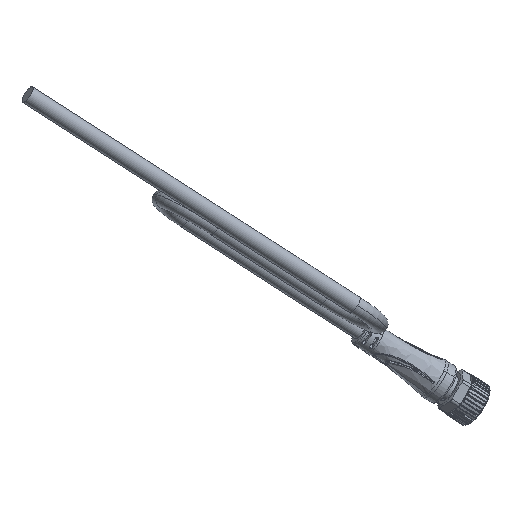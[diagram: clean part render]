
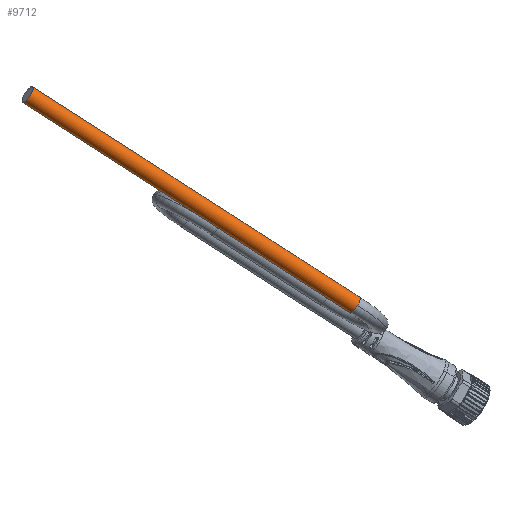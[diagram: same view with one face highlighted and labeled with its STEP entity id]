
A CAD part, top view. The second image highlights one B-rep face of the part: STEP entity #9712.
In plain terms, the highlighted cylindrical face has radius 2 mm (diameter 4 mm), a partial arc.
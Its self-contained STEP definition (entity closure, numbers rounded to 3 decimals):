
#81 = VERTEX_POINT ( 'NONE', #19049 ) ;
#2032 = DIRECTION ( 'NONE',  ( -1., 0., 0. ) ) ;
#3020 = EDGE_CURVE ( 'NONE', #10283, #35376, #27594, .T. ) ;
#3429 = CIRCLE ( 'NONE', #29197, 2. ) ;
#3659 = VERTEX_POINT ( 'NONE', #7986 ) ;
#4458 = DIRECTION ( 'NONE',  ( -1., 0., 0. ) ) ;
#4986 = CARTESIAN_POINT ( 'NONE',  ( 0., 40., -90. ) ) ;
#5838 = VECTOR ( 'NONE', #9872, 1000. ) ;
#7986 = CARTESIAN_POINT ( 'NONE',  ( -2., 40., 0. ) ) ;
#8530 = CARTESIAN_POINT ( 'NONE',  ( 0., 42., 0. ) ) ;
#9137 = CARTESIAN_POINT ( 'NONE',  ( 2., 40., 0. ) ) ;
#9712 = ADVANCED_FACE ( 'NONE', ( #32975 ), #12103, .T. ) ;
#9872 = DIRECTION ( 'NONE',  ( 0., 0., -1. ) ) ;
#10283 = VERTEX_POINT ( 'NONE', #34470 ) ;
#12103 = CYLINDRICAL_SURFACE ( 'NONE', #38821, 2. ) ;
#13216 = EDGE_CURVE ( 'NONE', #3659, #32283, #35467, .T. ) ;
#14028 = EDGE_CURVE ( 'NONE', #32283, #81, #3429, .T. ) ;
#16038 = EDGE_CURVE ( 'NONE', #81, #35376, #33744, .T. ) ;
#16524 = EDGE_LOOP ( 'NONE', ( #30828, #22824, #31864, #26224, #29553 ) ) ;
#16862 = CARTESIAN_POINT ( 'NONE',  ( 0., 40., 0. ) ) ;
#18000 = CARTESIAN_POINT ( 'NONE',  ( 0., 40., 0. ) ) ;
#18567 = DIRECTION ( 'NONE',  ( 0., 0., -1. ) ) ;
#19049 = CARTESIAN_POINT ( 'NONE',  ( 2., 40., 0. ) ) ;
#19100 = AXIS2_PLACEMENT_3D ( 'NONE', #16862, #20005, #4458 ) ;
#19895 = CARTESIAN_POINT ( 'NONE',  ( 2., 40., -90. ) ) ;
#20005 = DIRECTION ( 'NONE',  ( 0., 0., -1. ) ) ;
#22824 = ORIENTED_EDGE ( 'NONE', *, *, #14028, .T. ) ;
#24652 = LINE ( 'NONE', #36868, #5838 ) ;
#24684 = DIRECTION ( 'NONE',  ( -1., 0., 0. ) ) ;
#26224 = ORIENTED_EDGE ( 'NONE', *, *, #3020, .F. ) ;
#26809 = CARTESIAN_POINT ( 'NONE',  ( 0., 40., 0. ) ) ;
#27594 = CIRCLE ( 'NONE', #31936, 2. ) ;
#27741 = EDGE_CURVE ( 'NONE', #3659, #10283, #24652, .T. ) ;
#28994 = DIRECTION ( 'NONE',  ( 0., 0., -1. ) ) ;
#29197 = AXIS2_PLACEMENT_3D ( 'NONE', #26809, #38835, #38452 ) ;
#29553 = ORIENTED_EDGE ( 'NONE', *, *, #27741, .F. ) ;
#30828 = ORIENTED_EDGE ( 'NONE', *, *, #13216, .T. ) ;
#31152 = VECTOR ( 'NONE', #36138, 1000. ) ;
#31864 = ORIENTED_EDGE ( 'NONE', *, *, #16038, .T. ) ;
#31936 = AXIS2_PLACEMENT_3D ( 'NONE', #4986, #28994, #2032 ) ;
#32283 = VERTEX_POINT ( 'NONE', #8530 ) ;
#32975 = FACE_OUTER_BOUND ( 'NONE', #16524, .T. ) ;
#33744 = LINE ( 'NONE', #9137, #31152 ) ;
#34470 = CARTESIAN_POINT ( 'NONE',  ( -2., 40., -90. ) ) ;
#35376 = VERTEX_POINT ( 'NONE', #19895 ) ;
#35467 = CIRCLE ( 'NONE', #19100, 2. ) ;
#36138 = DIRECTION ( 'NONE',  ( 0., 0., -1. ) ) ;
#36868 = CARTESIAN_POINT ( 'NONE',  ( -2., 40., 0. ) ) ;
#38452 = DIRECTION ( 'NONE',  ( -1., 0., 0. ) ) ;
#38821 = AXIS2_PLACEMENT_3D ( 'NONE', #18000, #18567, #24684 ) ;
#38835 = DIRECTION ( 'NONE',  ( 0., 0., -1. ) ) ;
